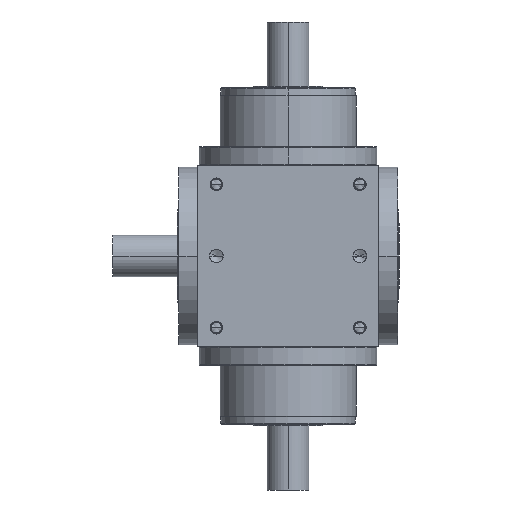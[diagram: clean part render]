
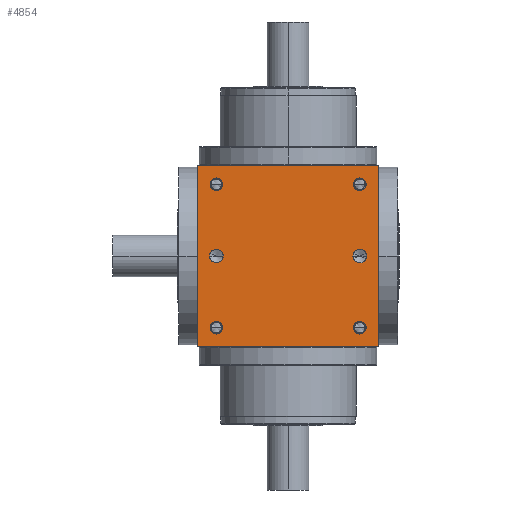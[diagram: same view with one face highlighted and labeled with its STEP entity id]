
A CAD part, front view. The second image highlights one B-rep face of the part: STEP entity #4854.
In plain terms, the highlighted planar face has unit normal (0, -1, 0).
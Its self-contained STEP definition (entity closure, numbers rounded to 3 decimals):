
#5=DIRECTION('',(1.,0.,0.));
#6=VECTOR('',#5,240.);
#7=CARTESIAN_POINT('',(-120.,-120.,-120.));
#8=LINE('',#7,#6);
#165=DIRECTION('',(0.,0.,1.));
#166=VECTOR('',#165,240.);
#167=CARTESIAN_POINT('',(120.,-120.,-120.));
#168=LINE('',#167,#166);
#219=DIRECTION('',(0.,0.,1.));
#220=VECTOR('',#219,240.);
#221=CARTESIAN_POINT('',(-120.,-120.,-120.));
#222=LINE('',#221,#220);
#223=CARTESIAN_POINT('',(95.,-120.,95.));
#224=DIRECTION('',(0.,1.,0.));
#225=DIRECTION('',(-1.,0.,0.));
#226=AXIS2_PLACEMENT_3D('',#223,#224,#225);
#228=CARTESIAN_POINT('',(95.,-120.,95.));
#229=DIRECTION('',(0.,1.,0.));
#230=DIRECTION('',(1.,0.,0.));
#231=AXIS2_PLACEMENT_3D('',#228,#229,#230);
#233=CARTESIAN_POINT('',(-95.,-120.,95.));
#234=DIRECTION('',(0.,1.,0.));
#235=DIRECTION('',(-1.,0.,0.));
#236=AXIS2_PLACEMENT_3D('',#233,#234,#235);
#238=CARTESIAN_POINT('',(-95.,-120.,95.));
#239=DIRECTION('',(0.,1.,0.));
#240=DIRECTION('',(1.,0.,0.));
#241=AXIS2_PLACEMENT_3D('',#238,#239,#240);
#243=CARTESIAN_POINT('',(95.,-120.,-95.));
#244=DIRECTION('',(0.,1.,0.));
#245=DIRECTION('',(-1.,0.,0.));
#246=AXIS2_PLACEMENT_3D('',#243,#244,#245);
#248=CARTESIAN_POINT('',(95.,-120.,-95.));
#249=DIRECTION('',(0.,1.,0.));
#250=DIRECTION('',(1.,0.,0.));
#251=AXIS2_PLACEMENT_3D('',#248,#249,#250);
#253=CARTESIAN_POINT('',(-95.,-120.,-95.));
#254=DIRECTION('',(0.,1.,0.));
#255=DIRECTION('',(-1.,0.,0.));
#256=AXIS2_PLACEMENT_3D('',#253,#254,#255);
#258=CARTESIAN_POINT('',(-95.,-120.,-95.));
#259=DIRECTION('',(0.,1.,0.));
#260=DIRECTION('',(1.,0.,0.));
#261=AXIS2_PLACEMENT_3D('',#258,#259,#260);
#263=CARTESIAN_POINT('',(-95.,-120.,0.));
#264=DIRECTION('',(0.,1.,0.));
#265=DIRECTION('',(1.,0.,0.));
#266=AXIS2_PLACEMENT_3D('',#263,#264,#265);
#268=CARTESIAN_POINT('',(-95.,-120.,0.));
#269=DIRECTION('',(0.,1.,0.));
#270=DIRECTION('',(-1.,0.,0.));
#271=AXIS2_PLACEMENT_3D('',#268,#269,#270);
#273=CARTESIAN_POINT('',(95.,-120.,0.));
#274=DIRECTION('',(0.,1.,0.));
#275=DIRECTION('',(1.,0.,0.));
#276=AXIS2_PLACEMENT_3D('',#273,#274,#275);
#278=CARTESIAN_POINT('',(95.,-120.,0.));
#279=DIRECTION('',(0.,1.,0.));
#280=DIRECTION('',(-1.,0.,0.));
#281=AXIS2_PLACEMENT_3D('',#278,#279,#280);
#295=DIRECTION('',(1.,0.,0.));
#296=VECTOR('',#295,240.);
#297=CARTESIAN_POINT('',(-120.,-120.,120.));
#298=LINE('',#297,#296);
#3876=CARTESIAN_POINT('',(-120.,-120.,-120.));
#3878=VERTEX_POINT('',#3876);
#3879=CARTESIAN_POINT('',(120.,-120.,-120.));
#3880=VERTEX_POINT('',#3879);
#3884=CARTESIAN_POINT('',(-120.,-120.,120.));
#3886=VERTEX_POINT('',#3884);
#3887=CARTESIAN_POINT('',(120.,-120.,120.));
#3888=VERTEX_POINT('',#3887);
#4059=CARTESIAN_POINT('',(86.6,-120.,95.));
#4060=CARTESIAN_POINT('',(103.4,-120.,95.));
#4061=VERTEX_POINT('',#4059);
#4062=VERTEX_POINT('',#4060);
#4067=CARTESIAN_POINT('',(-103.4,-120.,95.));
#4068=CARTESIAN_POINT('',(-86.6,-120.,95.));
#4069=VERTEX_POINT('',#4067);
#4070=VERTEX_POINT('',#4068);
#4075=CARTESIAN_POINT('',(86.6,-120.,-95.));
#4076=CARTESIAN_POINT('',(103.4,-120.,-95.));
#4077=VERTEX_POINT('',#4075);
#4078=VERTEX_POINT('',#4076);
#4083=CARTESIAN_POINT('',(-103.4,-120.,-95.));
#4084=CARTESIAN_POINT('',(-86.6,-120.,-95.));
#4085=VERTEX_POINT('',#4083);
#4086=VERTEX_POINT('',#4084);
#4425=CARTESIAN_POINT('',(-85.95,-120.,
0.));
#4426=CARTESIAN_POINT('',(-104.05,-120.,0.));
#4427=VERTEX_POINT('',#4425);
#4428=VERTEX_POINT('',#4426);
#4433=CARTESIAN_POINT('',(104.05,-120.,0.));
#4434=CARTESIAN_POINT('',(85.95,-120.,0.));
#4435=VERTEX_POINT('',#4433);
#4436=VERTEX_POINT('',#4434);
#4806=CARTESIAN_POINT('',(-120.,-120.,-120.));
#4807=DIRECTION('',(0.,-1.,0.));
#4808=DIRECTION('',(1.,0.,0.));
#4809=AXIS2_PLACEMENT_3D('',#4806,#4807,#4808);
#4810=PLANE('',#4809);
#4811=ORIENTED_EDGE('',*,*,#4640,.F.);
#4812=ORIENTED_EDGE('',*,*,#4689,.T.);
#4814=ORIENTED_EDGE('',*,*,#4813,.T.);
#4815=ORIENTED_EDGE('',*,*,#4768,.F.);
#4816=EDGE_LOOP('',(#4811,#4812,#4814,#4815));
#4817=FACE_OUTER_BOUND('',#4816,.F.);
#4819=ORIENTED_EDGE('',*,*,#4818,.F.);
#4821=ORIENTED_EDGE('',*,*,#4820,.F.);
#4822=EDGE_LOOP('',(#4819,#4821));
#4823=FACE_BOUND('',#4822,.F.);
#4825=ORIENTED_EDGE('',*,*,#4824,.F.);
#4827=ORIENTED_EDGE('',*,*,#4826,.F.);
#4828=EDGE_LOOP('',(#4825,#4827));
#4829=FACE_BOUND('',#4828,.F.);
#4831=ORIENTED_EDGE('',*,*,#4830,.F.);
#4833=ORIENTED_EDGE('',*,*,#4832,.F.);
#4834=EDGE_LOOP('',(#4831,#4833));
#4835=FACE_BOUND('',#4834,.F.);
#4837=ORIENTED_EDGE('',*,*,#4836,.F.);
#4839=ORIENTED_EDGE('',*,*,#4838,.F.);
#4840=EDGE_LOOP('',(#4837,#4839));
#4841=FACE_BOUND('',#4840,.F.);
#4843=ORIENTED_EDGE('',*,*,#4842,.F.);
#4845=ORIENTED_EDGE('',*,*,#4844,.F.);
#4846=EDGE_LOOP('',(#4843,#4845));
#4847=FACE_BOUND('',#4846,.F.);
#4849=ORIENTED_EDGE('',*,*,#4848,.F.);
#4851=ORIENTED_EDGE('',*,*,#4850,.F.);
#4852=EDGE_LOOP('',(#4849,#4851));
#4853=FACE_BOUND('',#4852,.F.);
#4854=ADVANCED_FACE('',(#4817,#4823,#4829,#4835,#4841,#4847,#4853),#4810,.T.);
#227=CIRCLE('',#226,8.4);
#232=CIRCLE('',#231,8.4);
#237=CIRCLE('',#236,8.4);
#242=CIRCLE('',#241,8.4);
#247=CIRCLE('',#246,8.4);
#252=CIRCLE('',#251,8.4);
#257=CIRCLE('',#256,8.4);
#262=CIRCLE('',#261,8.4);
#267=CIRCLE('',#266,9.05);
#272=CIRCLE('',#271,9.05);
#277=CIRCLE('',#276,9.05);
#282=CIRCLE('',#281,9.05);
#4640=EDGE_CURVE('',#3878,#3880,#8,.T.);
#4689=EDGE_CURVE('',#3878,#3886,#222,.T.);
#4768=EDGE_CURVE('',#3880,#3888,#168,.T.);
#4813=EDGE_CURVE('',#3886,#3888,#298,.T.);
#4818=EDGE_CURVE('',#4061,#4062,#227,.T.);
#4820=EDGE_CURVE('',#4062,#4061,#232,.T.);
#4824=EDGE_CURVE('',#4069,#4070,#237,.T.);
#4826=EDGE_CURVE('',#4070,#4069,#242,.T.);
#4830=EDGE_CURVE('',#4077,#4078,#247,.T.);
#4832=EDGE_CURVE('',#4078,#4077,#252,.T.);
#4836=EDGE_CURVE('',#4085,#4086,#257,.T.);
#4838=EDGE_CURVE('',#4086,#4085,#262,.T.);
#4842=EDGE_CURVE('',#4427,#4428,#267,.T.);
#4844=EDGE_CURVE('',#4428,#4427,#272,.T.);
#4848=EDGE_CURVE('',#4435,#4436,#277,.T.);
#4850=EDGE_CURVE('',#4436,#4435,#282,.T.);
